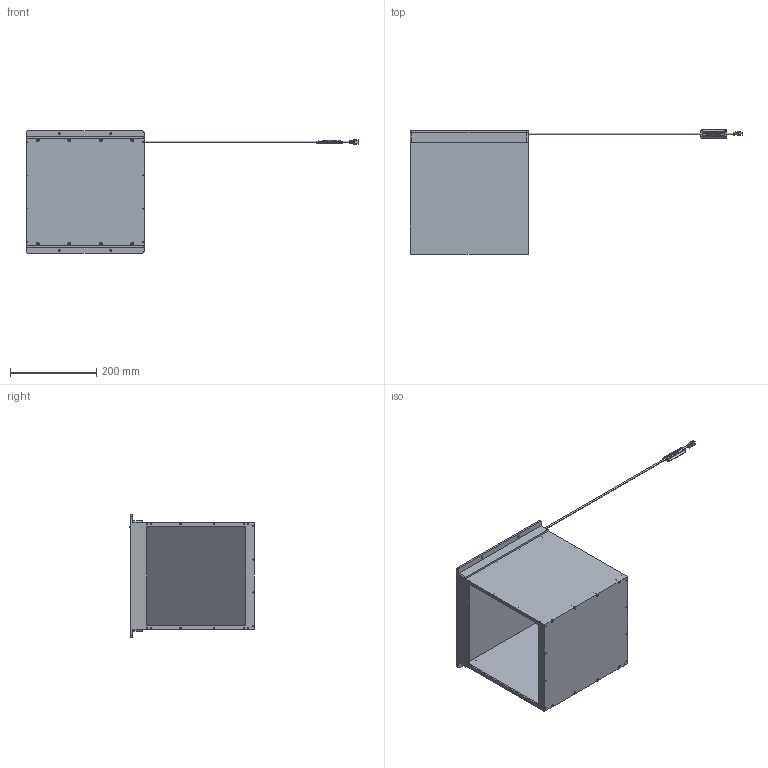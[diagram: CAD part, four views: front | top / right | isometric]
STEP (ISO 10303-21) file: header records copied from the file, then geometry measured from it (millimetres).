
FILE_DESCRIPTION (( 'STEP AP203' ), '1' );
FILE_NAME ('A22953A0000101A.STEP', '2017-07-10T07:42:36', ( '' ), ( '' ), 'SwSTEP 2.0', 'SolidWorks 2014', '' );
FILE_SCHEMA (( 'CONFIG_CONTROL_DESIGN' ));
Length unit declared in the file: millimetre
Products named in the file (1): A22953A0000101A
Bounding box: 770.87 x 289.5 x 284 mm (x, y, z)
Volume: 3445379.1 mm3; surface area: 946104.9 mm2
Topology: 7 solids, 95 shells, 2564 faces, 6255 edges, 3796 vertices
Faces by surface type: plane 1256, cone 572, cylinder 511, bspline 153, torus 72
Entity records: 79910 total; most frequent: CARTESIAN_POINT 22525, ORIENTED_EDGE 12166, DIRECTION 11517, EDGE_CURVE 6083, AXIS2_PLACEMENT_3D 4572, VERTEX_POINT 3796, EDGE_LOOP 2779, FACE_OUTER_BOUND 2564
